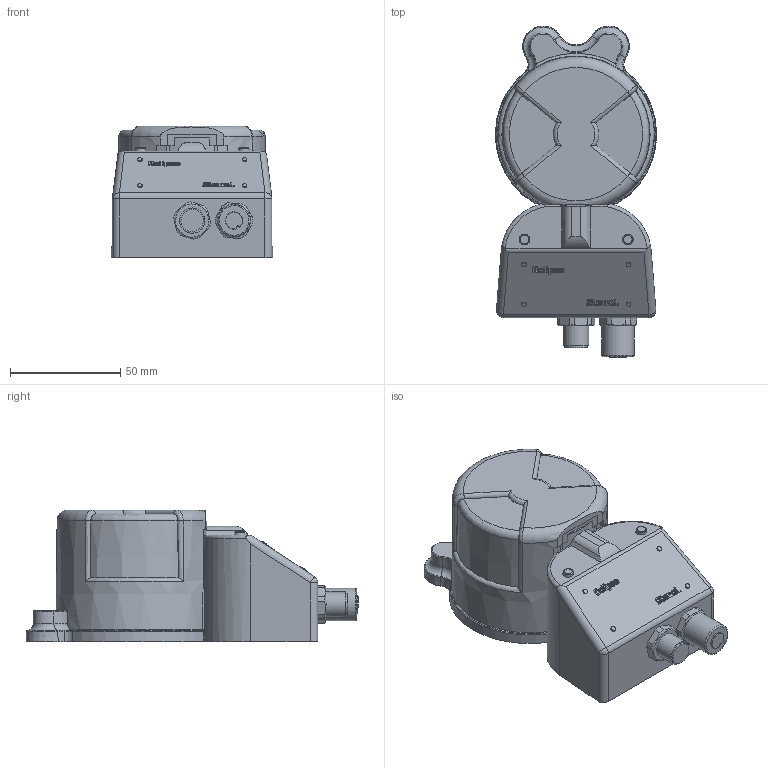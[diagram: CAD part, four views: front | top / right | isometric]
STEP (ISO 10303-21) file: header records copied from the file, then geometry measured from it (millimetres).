
FILE_DESCRIPTION((''),'2;1');
FILE_NAME('C:\vault\Engineering Documents\500\500123_connectors.stp','2012-02-29T08:30:01',('ffmberrydi'),(''),'Autodesk Inventor 2011','Autodesk Inventor 2011','');
FILE_SCHEMA(('AUTOMOTIVE_DESIGN { 1 0 10303 214 1 1 1 1 }'));
Length unit declared in the file: inch
Products named in the file (1): 500123_Block_2
Bounding box: 73.35 x 150.88 x 59.86 mm (x, y, z)
Volume: 376170.3 mm3; surface area: 53378.4 mm2
Topology: 1 solids, 4 shells, 528 faces, 1422 edges, 925 vertices
Faces by surface type: plane 225, bspline 128, cylinder 97, torus 52, cone 19, sphere 7
Full cylindrical faces by diameter (mm): 2.159 x4, 10.211 x1, 11.43 x1, 12.7 x1, 14.732 x1, 56.286 x1
Entity records: 18919 total; most frequent: CARTESIAN_POINT 6337, ORIENTED_EDGE 2774, DIRECTION 2122, EDGE_CURVE 1387, VERTEX_POINT 913, AXIS2_PLACEMENT_3D 747, VECTOR 628, LINE 628
